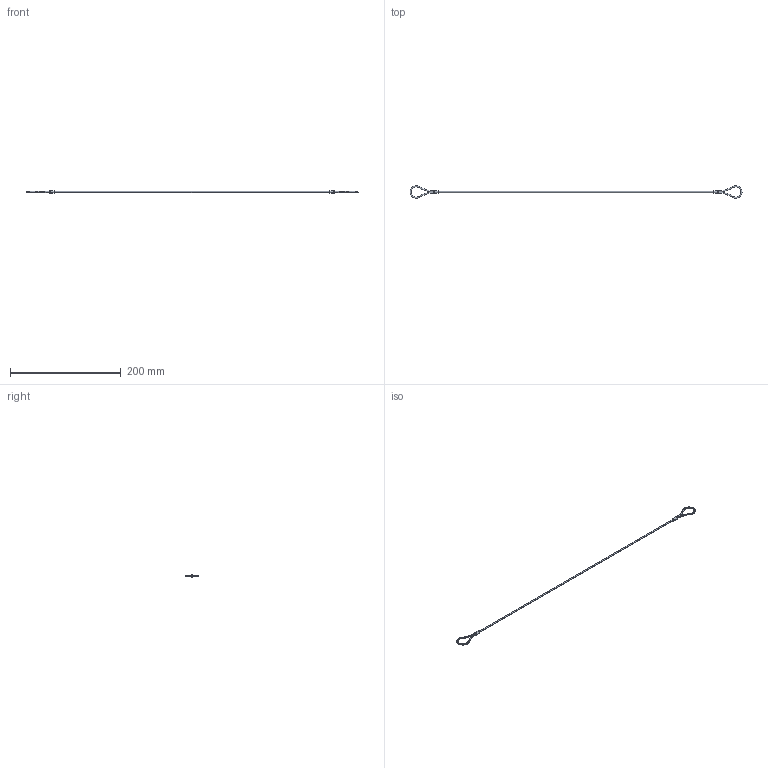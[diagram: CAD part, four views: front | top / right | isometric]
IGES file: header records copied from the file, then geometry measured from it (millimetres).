
Start section:  PTC IGES file: EB-935_20.igs
Global section: file name: EB-935_20.igs; native system: Creo Parametric by Parametric Technology Corporation; preprocessor: 2012360; author: xeon_1; organization: Unknown; date: 20130808.151416; units: millimetre
Bounding box: 599.92 x 22.47 x 5 mm (x, y, z)
Volume: 2523 mm3; surface area: 4677.9 mm2
Topology: 1 solids, 1 shells, 32 faces, 70 edges, 38 vertices
Faces by surface type: revolution 26, bspline 6
